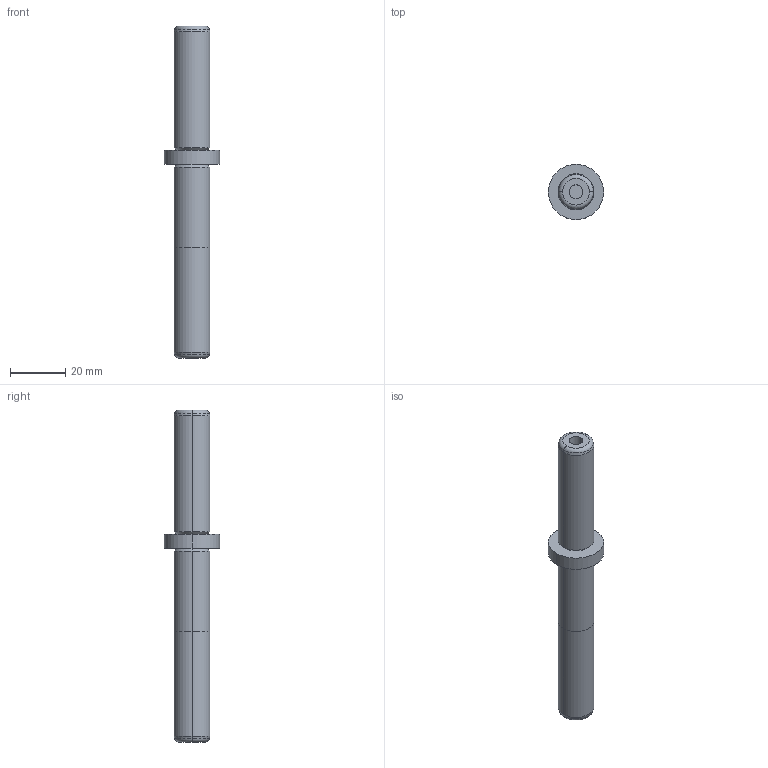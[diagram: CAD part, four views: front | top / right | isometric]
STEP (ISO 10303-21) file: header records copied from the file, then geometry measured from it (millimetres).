
FILE_DESCRIPTION(/* description */ (''),/* implementation_level */ '2;1');
FILE_NAME(/* name */ '3d_sgpwh13-70-50-b30_05307_r00.stp',/* time_stamp */ '2011-01-10T14:11:02+09:00',/* author */ ('MISUMI'),/* organization */ (''),/* preprocessor_version */ 'ST-DEVELOPER v11',/* originating_system */ 'UGS - NX 5.0',/* authorisation */ '');
FILE_SCHEMA (('CONFIG_CONTROL_DESIGN'));
Length unit declared in the file: millimetre
Products named in the file (1): 3d_sgpwh13-70-50-b30_05307_r00
Bounding box: 20 x 20 x 120 mm (x, y, z)
Volume: 15871.3 mm3; surface area: 6360.8 mm2
Topology: 1 solids, 1 shells, 30 faces, 58 edges, 34 vertices
Faces by surface type: cylinder 12, cone 8, plane 6, torus 4
Entity records: 854 total; most frequent: DIRECTION 158, CARTESIAN_POINT 123, ORIENTED_EDGE 116, AXIS2_PLACEMENT_3D 69, EDGE_CURVE 58, CIRCLE 38, EDGE_LOOP 34, VERTEX_POINT 34
